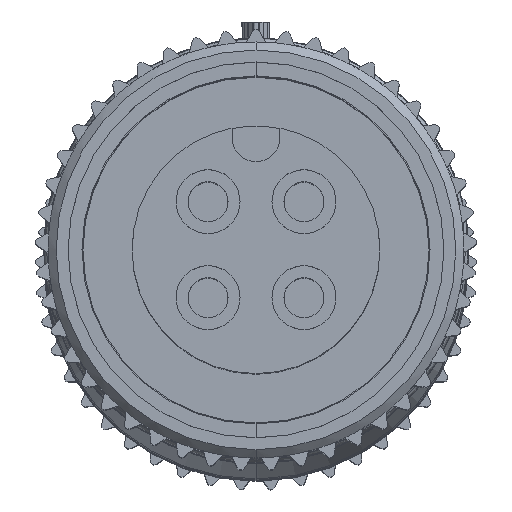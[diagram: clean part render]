
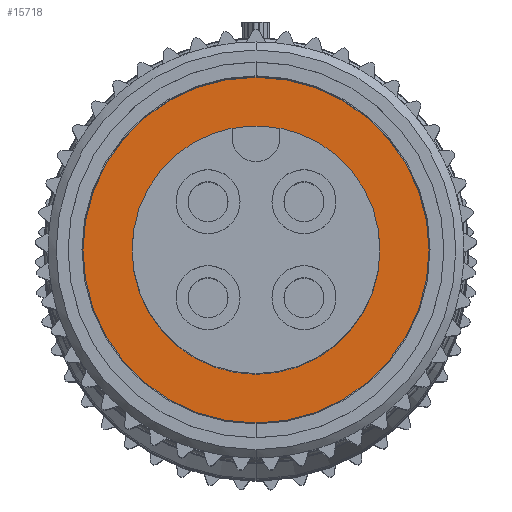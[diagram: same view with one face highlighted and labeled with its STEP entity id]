
A CAD part, top view. The second image highlights one B-rep face of the part: STEP entity #15718.
In plain terms, the highlighted planar face has unit normal (0, 0, 1).
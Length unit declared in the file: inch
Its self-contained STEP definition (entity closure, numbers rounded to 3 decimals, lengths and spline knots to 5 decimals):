
#24=CARTESIAN_POINT('',(0.,0.,-0.5));
#25=DIRECTION('',(0.,0.,-1.));
#26=DIRECTION('',(0.,-1.,0.));
#27=AXIS2_PLACEMENT_3D('',#24,#25,#26);
#29=CARTESIAN_POINT('',(0.,0.,-0.5));
#30=DIRECTION('',(0.,0.,-1.));
#31=DIRECTION('',(0.,1.,0.));
#32=AXIS2_PLACEMENT_3D('',#29,#30,#31);
#34=CARTESIAN_POINT('',(0.,0.,-0.5));
#35=DIRECTION('',(0.,0.,1.));
#36=DIRECTION('',(0.,-1.,0.));
#37=AXIS2_PLACEMENT_3D('',#34,#35,#36);
#39=CARTESIAN_POINT('',(0.,0.,-0.5));
#40=DIRECTION('',(0.,0.,1.));
#41=DIRECTION('',(0.,1.,0.));
#42=AXIS2_PLACEMENT_3D('',#39,#40,#41);
#12670=CARTESIAN_POINT('',(0.,-0.155,-0.5));
#12672=VERTEX_POINT('',#12670);
#12682=CARTESIAN_POINT('',(0.,0.155,-0.5));
#12683=VERTEX_POINT('',#12682);
#12686=CARTESIAN_POINT('',(0.,-0.2165,-0.5));
#12687=CARTESIAN_POINT('',(0.,0.2165,-0.5));
#12688=VERTEX_POINT('',#12686);
#12689=VERTEX_POINT('',#12687);
#15703=CARTESIAN_POINT('',(0.,0.,-0.5));
#15704=DIRECTION('',(0.,0.,1.));
#15705=DIRECTION('',(0.,1.,0.));
#15706=AXIS2_PLACEMENT_3D('',#15703,#15704,#15705);
#15707=PLANE('',#15706);
#15709=ORIENTED_EDGE('',*,*,#15708,.T.);
#15711=ORIENTED_EDGE('',*,*,#15710,.T.);
#15712=EDGE_LOOP('',(#15709,#15711));
#15713=FACE_OUTER_BOUND('',#15712,.F.);
#15714=ORIENTED_EDGE('',*,*,#15693,.T.);
#15715=ORIENTED_EDGE('',*,*,#15662,.T.);
#15716=EDGE_LOOP('',(#15714,#15715));
#15717=FACE_BOUND('',#15716,.F.);
#15718=ADVANCED_FACE('',(#15713,#15717),#15707,.T.);
#28=CIRCLE('',#27,0.2165);
#33=CIRCLE('',#32,0.2165);
#38=CIRCLE('',#37,0.155);
#43=CIRCLE('',#42,0.155);
#15662=EDGE_CURVE('',#12683,#12672,#43,.T.);
#15693=EDGE_CURVE('',#12672,#12683,#38,.T.);
#15708=EDGE_CURVE('',#12688,#12689,#28,.T.);
#15710=EDGE_CURVE('',#12689,#12688,#33,.T.);
